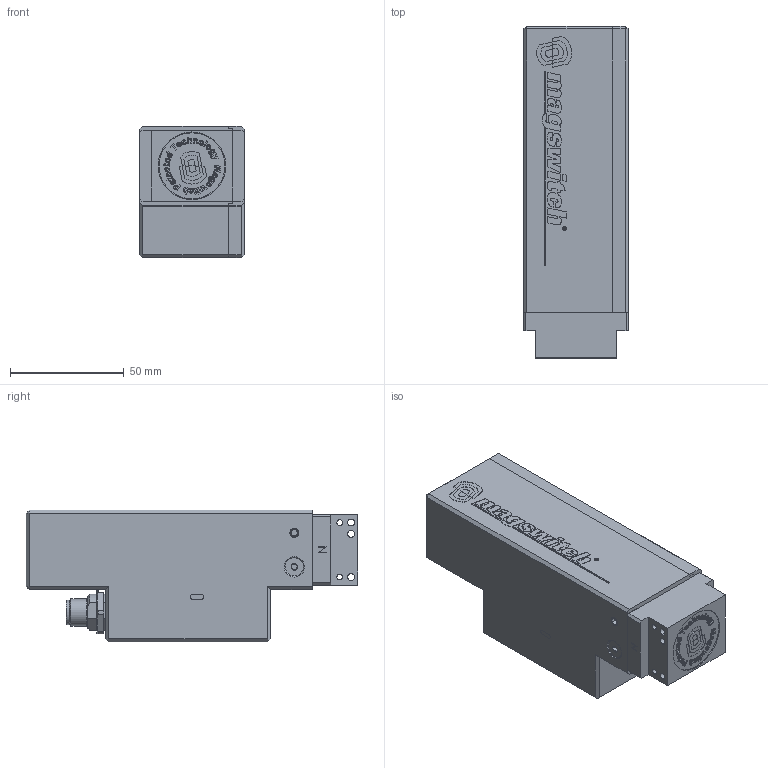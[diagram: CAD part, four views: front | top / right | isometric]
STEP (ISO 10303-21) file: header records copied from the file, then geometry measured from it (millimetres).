
FILE_DESCRIPTION (( 'STEP AP203' ), '1' );
FILE_NAME ('80001263.STEP', '2019-09-24T07:58:39', ( 'AutoBVT' ), ( 'Microsoft' ), 'SwSTEP 2.0', 'SolidWorks 2018', '' );
FILE_SCHEMA (( 'CONFIG_CONTROL_DESIGN' ));
Products named in the file (1): 80001263
Bounding box: 46 x 146 x 58 mm (x, y, z)
Surface area: 34944.8 mm2 (no closed solid volume)
Topology: 0 solids, 23 shells, 1189 faces, 5533 edges, 4143 vertices
Faces by surface type: plane 675, bspline 379, cylinder 94, cone 35, torus 4, sphere 2
Entity records: 81723 total; most frequent: CARTESIAN_POINT 43190, ORIENTED_EDGE 7827, DIRECTION 5631, EDGE_CURVE 5520, VERTEX_POINT 4140, VECTOR 3505, LINE 3505, B_SPLINE_CURVE_WITH_KNOTS 1755
